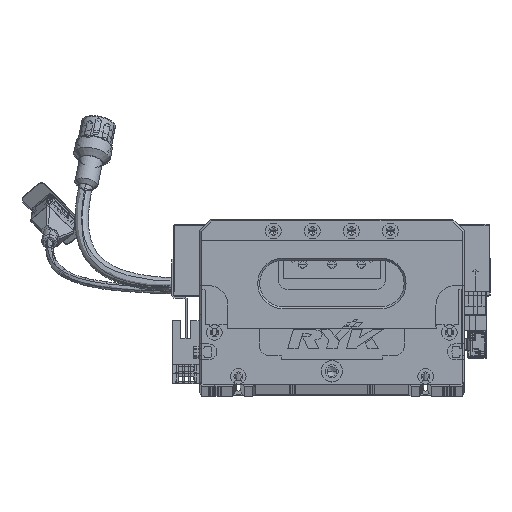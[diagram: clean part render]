
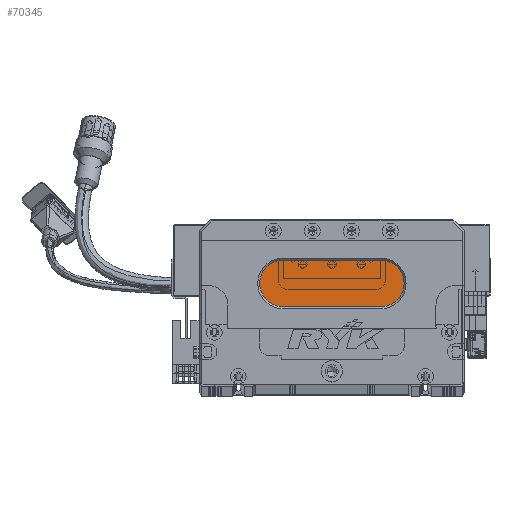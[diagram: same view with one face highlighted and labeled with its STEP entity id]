
A CAD part, top view. The second image highlights one B-rep face of the part: STEP entity #70345.
In plain terms, the highlighted planar face has unit normal (0, 0, 1) as drawn and (0, 0, -1) by its records, which use the part's own axes.
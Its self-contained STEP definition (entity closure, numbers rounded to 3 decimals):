
#1858 = CARTESIAN_POINT ( 'NONE',  ( 93., 64., 13. ) ) ;
#3823 = EDGE_CURVE ( 'NONE', #97140, #83380, #33998, .T. ) ;
#7533 = ORIENTED_EDGE ( 'NONE', *, *, #3823, .T. ) ;
#10582 = VECTOR ( 'NONE', #139587, 1000. ) ;
#12489 = EDGE_CURVE ( 'NONE', #83380, #130443, #129518, .T. ) ;
#12779 = AXIS2_PLACEMENT_3D ( 'NONE', #32919, #66848, #43936 ) ;
#15117 = AXIS2_PLACEMENT_3D ( 'NONE', #43296, #108294, #64761 ) ;
#15370 = DIRECTION ( 'NONE',  ( -1., 0., 0. ) ) ;
#31006 = ORIENTED_EDGE ( 'NONE', *, *, #114565, .T. ) ;
#32919 = CARTESIAN_POINT ( 'NONE',  ( 93., 52., 13. ) ) ;
#33998 = CIRCLE ( 'NONE', #15117, 12. ) ;
#35960 = ORIENTED_EDGE ( 'NONE', *, *, #56811, .T. ) ;
#36387 = DIRECTION ( 'NONE',  ( 0., 0., -1. ) ) ;
#39610 = LINE ( 'NONE', #95520, #10582 ) ;
#40749 = DIRECTION ( 'NONE',  ( 1., 0., 0. ) ) ;
#42028 = ORIENTED_EDGE ( 'NONE', *, *, #12489, .T. ) ;
#43296 = CARTESIAN_POINT ( 'NONE',  ( 43., 52., 13. ) ) ;
#43936 = DIRECTION ( 'NONE',  ( -1., 0., 0. ) ) ;
#44540 = VERTEX_POINT ( 'NONE', #85280 ) ;
#45203 = AXIS2_PLACEMENT_3D ( 'NONE', #109490, #108068, #53571 ) ;
#47683 = VERTEX_POINT ( 'NONE', #1858 ) ;
#48736 = CARTESIAN_POINT ( 'NONE',  ( 31., 52., 13. ) ) ;
#53571 = DIRECTION ( 'NONE',  ( -1., 0., 0. ) ) ;
#54179 = AXIS2_PLACEMENT_3D ( 'NONE', #90362, #36387, #15370 ) ;
#56811 = EDGE_CURVE ( 'NONE', #44540, #97140, #39610, .T. ) ;
#64463 = EDGE_CURVE ( 'NONE', #130443, #47683, #110693, .T. ) ;
#64761 = DIRECTION ( 'NONE',  ( -1., 0., 0. ) ) ;
#66848 = DIRECTION ( 'NONE',  ( 0., 0., -1. ) ) ;
#70345 = ADVANCED_FACE ( 'NONE', ( #112691 ), #130556, .T. ) ;
#83380 = VERTEX_POINT ( 'NONE', #48736 ) ;
#84259 = CARTESIAN_POINT ( 'NONE',  ( 93., 64., 13. ) ) ;
#85077 = VECTOR ( 'NONE', #40749, 1000. ) ;
#85280 = CARTESIAN_POINT ( 'NONE',  ( 93., 40., 13. ) ) ;
#90362 = CARTESIAN_POINT ( 'NONE',  ( 43., 52., 13. ) ) ;
#95520 = CARTESIAN_POINT ( 'NONE',  ( 93., 40., 13. ) ) ;
#97140 = VERTEX_POINT ( 'NONE', #135274 ) ;
#102276 = CARTESIAN_POINT ( 'NONE',  ( 43., 64., 13. ) ) ;
#107546 = CIRCLE ( 'NONE', #12779, 12. ) ;
#108068 = DIRECTION ( 'NONE',  ( 0., 0., -1. ) ) ;
#108294 = DIRECTION ( 'NONE',  ( 0., 0., -1. ) ) ;
#109490 = CARTESIAN_POINT ( 'NONE',  ( 93., 52., 13. ) ) ;
#110693 = LINE ( 'NONE', #84259, #85077 ) ;
#112637 = ORIENTED_EDGE ( 'NONE', *, *, #64463, .T. ) ;
#112691 = FACE_OUTER_BOUND ( 'NONE', #120527, .T. ) ;
#114565 = EDGE_CURVE ( 'NONE', #47683, #44540, #107546, .T. ) ;
#120527 = EDGE_LOOP ( 'NONE', ( #31006, #35960, #7533, #42028, #112637 ) ) ;
#129518 = CIRCLE ( 'NONE', #54179, 12. ) ;
#130443 = VERTEX_POINT ( 'NONE', #102276 ) ;
#130556 = PLANE ( 'NONE',  #45203 ) ;
#135274 = CARTESIAN_POINT ( 'NONE',  ( 43., 40., 13. ) ) ;
#139587 = DIRECTION ( 'NONE',  ( -1., 0., 0. ) ) ;
